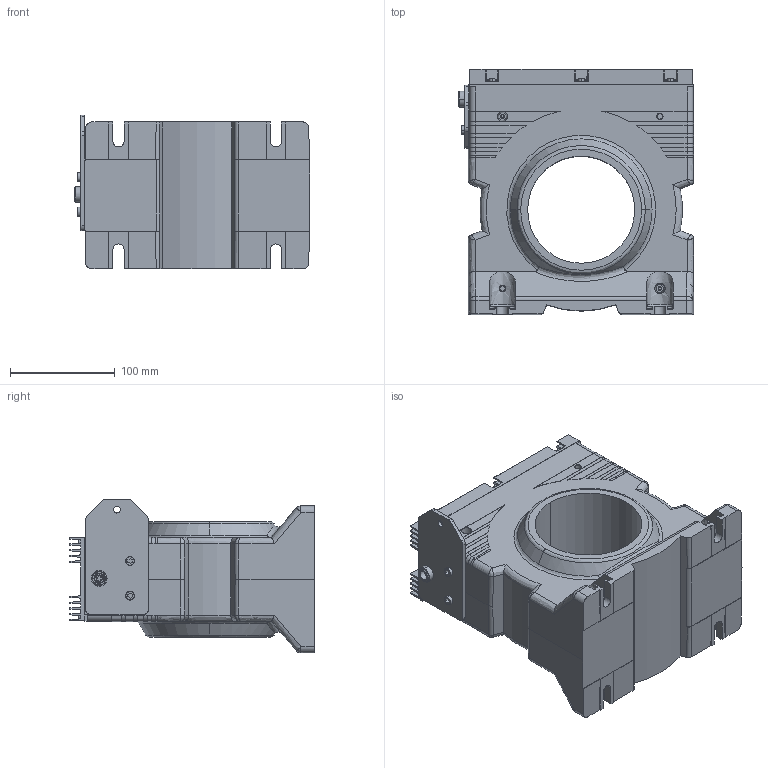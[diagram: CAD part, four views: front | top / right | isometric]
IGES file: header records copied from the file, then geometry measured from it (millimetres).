
Start section: Elysium IGES Interface
Global section: file name: C:\Users\scy\Desktop\LT_4000-S_SP35_black-box_SCy_141111.igs; native system: CoCreate Modeling 17.0B  09-Oct-2010; preprocessor: CoCreate IGES_3D V2.2; author: Unknown; organization: Unknown; date: 20111114.140425; units: millimetre
Bounding box: 224.91 x 234 x 146.5 mm (x, y, z)
Volume: 4257.9 mm3; surface area: 280573.6 mm2
Topology: 20 solids, 22 shells, 1101 faces, 2841 edges, 1820 vertices
Faces by surface type: bspline 1101
